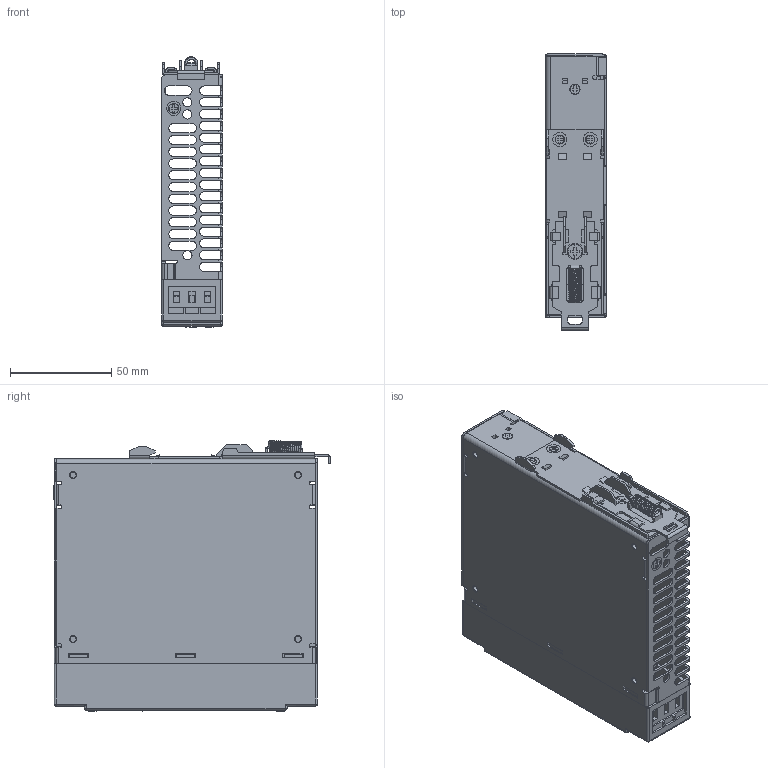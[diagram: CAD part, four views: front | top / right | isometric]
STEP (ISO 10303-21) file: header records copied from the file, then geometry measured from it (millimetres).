
FILE_DESCRIPTION((''),'2;1');
FILE_NAME('IS-50_ASM','2020-06-16T',('Dell'),(''),'PRO/ENGINEER BY PARAMETRIC TECHNOLOGY CORPORATION, 2010280','PRO/ENGINEER BY PARAMETRIC TECHNOLOGY CORPORATION, 2010280','');
FILE_SCHEMA(('AUTOMOTIVE_DESIGN { 1 2 10303 214 0 1 1 1 }'));
Products named in the file (21): IS50-CASE; IS50-CASE1; IS50-COVER; IS50-DAOGUI; IS50-3MM; IS50-LUOSI; IS50-DUANZI; IS50-DUANZI1; IS50-JIEDI; IS50-L; IS50-N; IS50-V-ADJ; IS50-DCOK; IS50-DCLOW; IS50-WENZI; IS50-WENZI1; IS50-DAOGUI1; IS50-TANHUANG; IS50-5MM; IS50-LED; IS-50_ASM
Assembly tree (28 placements, depth 2):
  IS-50_ASM
    IS50-CASE
    IS50-CASE1
    IS50-COVER
    IS50-DAOGUI
    IS50-3MM  x5
    IS50-LUOSI  x2
    IS50-DUANZI
    IS50-DUANZI1
    IS50-JIEDI
    IS50-L
    IS50-N
    IS50-V-ADJ
    IS50-DCOK
    IS50-DCLOW
    IS50-WENZI  x2
    IS50-WENZI1  x2
    IS50-DAOGUI1
    IS50-TANHUANG
    IS50-5MM
    IS50-LED  x2
Bounding box: 30 x 136.36 x 133.53 mm (x, y, z)
Volume: 91681.2 mm3; surface area: 104191.8 mm2
Topology: 42 solids, 42 shells, 1992 faces, 5719 edges, 3788 vertices
Faces by surface type: plane 1436, cylinder 522, cone 12, sphere 12, bspline 8, torus 2
Entity records: 77773 total; most frequent: CARTESIAN_POINT 17640, ORIENTED_EDGE 10770, DIRECTION 10165, EDGE_CURVE 5385, VECTOR 4343, LINE 4343, VERTEX_POINT 3570, AXIS2_PLACEMENT_3D 2911
